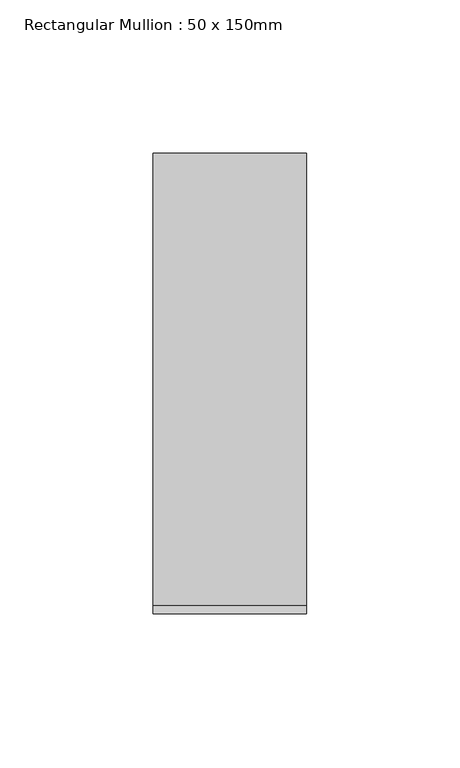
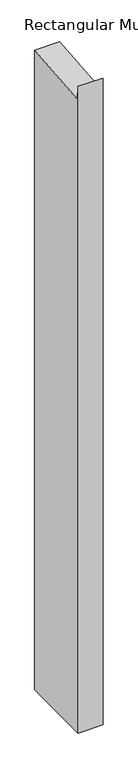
"""IFC4 building model written with IfcOpenShell, lengths in millimetres: member geometry, Rectangular Mullion : 50 x 150mm."""

from ifc_helpers import new_model, si_unit, frame, origin, place, context, project, spatial, polyline, outline, extrude, source, transform, mapped, element, save


def rectangular_mullion_50_x_150mm_5f9b827b(model_context):
    return source(origin(), model_context, "Body", "SweptSolid", [
        extrude(outline(polyline([(-75.0, 21.4499323), (-72.3032509, -6.9724867), (75.0, 7.003801), (75.0, -1341.0969058), (-75.0, -1341.0969058), (-75.0, 21.4499323)])), frame((-50.0, 0.0, 0.0), z_axis=(1.0, 0.0, 0.0), x_axis=(0.0, 1.0, 0.0)), (0.0, 0.0, 1.0), 50.0),
    ])


if __name__ == "__main__":
    model = new_model("IFC4")
    model_context = context("Model", 3, world=origin())
    ifc_project = project(units=[si_unit("LENGTHUNIT", "METRE", prefix="MILLI")], contexts=[model_context])
    site = spatial("IfcSite", under=ifc_project)
    building = spatial("IfcBuilding", under=site)
    placement = place(None, origin())
    rectangular_mullion_50_x_150mm_shape = rectangular_mullion_50_x_150mm_5f9b827b(model_context)
    element("IfcMember", 1, ObjectType="Rectangular Mullion : 50 x 150mm", at=placement, inside=building, context=model_context, shape_type="MappedRepresentation", body=[
        mapped(rectangular_mullion_50_x_150mm_shape, transform((0.0, 0.0, 0.0), x_axis=(1.0, 0.0, 0.0), y_axis=(0.0, 1.0, 0.0), z_axis=(0.0, 0.0, 1.0))),
    ])
    save(model, "model.ifc")
